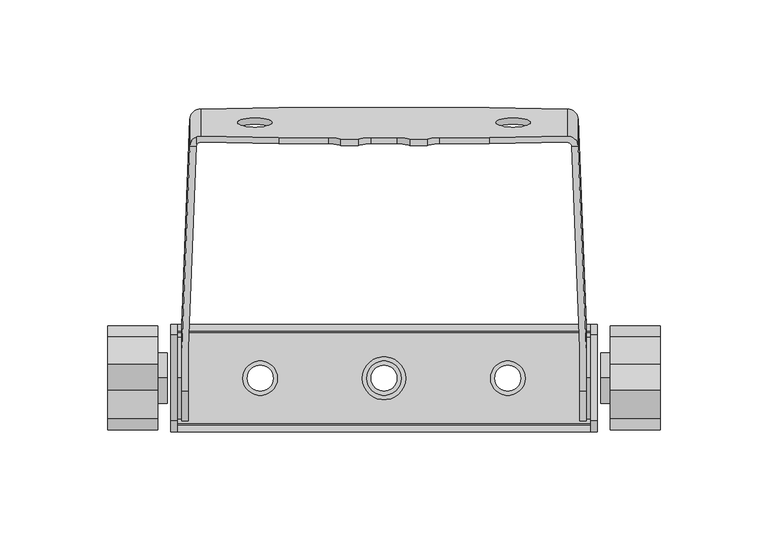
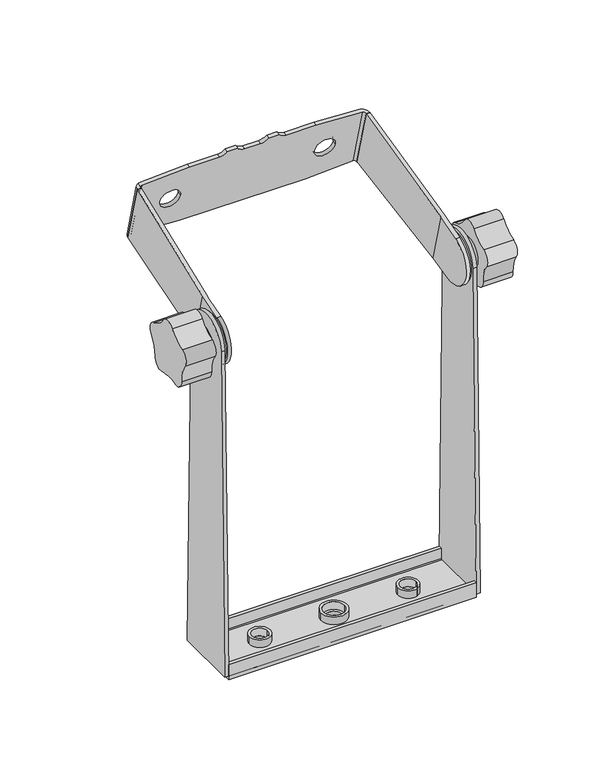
"""IFC4 building model written with IfcOpenShell, lengths in millimetres: proxy geometry, d&b U-Series U3 Swivel Bracket : d&b U-Series U3 Swivel Bracket."""

from ifc_helpers import new_model, si_unit, point, frame, frame_2d, origin, origin_2d, place, context, project, spatial, polyline, circle_curve, ellipse_curve, trimmed, segment, composite_curve, outline, extrude, source, transform, mapped, element, save
from ifc_brep_helpers import plane_surface, cylinder_surface, revolved_surface, advanced_brep


def communication_devices_72063a0f(model_context):
    return source(origin(), model_context, "Body", "SolidModel", [
        advanced_brep(
        [(85.2249786, 109.5968687, 54.6233142), (49.0, 108.9412549, 57.0700983), (26.0, 108.9412549, 57.0700983), (20.0, 108.1647978, 59.9678757), (11.9986269, 108.1649755, 59.9672126), (6.0, 108.9412549, 57.0700983), (-6.0, 108.9412549, 57.0700983), (-11.9986269, 108.1649755, 59.9672126), (-20.0, 108.1647978, 59.9678757), (-26.0, 108.9412549, 57.0700983), (-49.0, 108.9412549, 57.0700983), (-85.2249786, 109.6322735, 54.4911818), (-85.2249786, 122.2253296, 7.4932566), (-49.0, 122.8809434, 5.0464726), (49.0, 122.8809434, 5.0464726), (85.2249786, 122.2253296, 7.4932566), (-68.015413, 115.9232503, 31.0129366), (-51.9395257, 115.9232503, 31.0129366), (68.015413, 115.9232503, 31.0129366), (51.9395257, 115.9232503, 31.0129366), (-86.9078273, 108.704187, 54.1140954), (-87.1464599, 107.8082819, 53.8743772), (-87.1464599, 120.3345454, 7.1257254), (-90.1441716, 107.920985, 53.9088321), (-90.1441716, 120.3940588, 7.358687), (-86.9078273, 112.2531286, 55.0650314), (-85.1480264, 112.528583, 55.2731173), (-85.1480264, 125.1244998, 8.2645161), (-49.0, 111.8390324, 57.8465554), (-26.0, 111.8390324, 57.8465554), (-20.0, 111.0625753, 60.7443329), (-11.9986269, 111.0627529, 60.7436697), (-6.0, 111.8390324, 57.8465554), (6.0, 111.8390324, 57.8465554), (11.9986269, 111.0627529, 60.7436697), (20.0, 111.0625753, 60.7443329), (26.0, 111.8390324, 57.8465554), (49.0, 111.8390324, 57.8465554), (85.1480264, 112.4932535, 55.404969), (85.1480264, 125.1244998, 8.2645161), (49.0, 125.7787209, 5.8229297), (-49.0, 125.7787209, 5.8229297), (-51.9395257, 118.8210278, 31.7893938), (-68.015413, 118.8210278, 31.7893938), (51.9395257, 118.8210278, 31.7893938), (68.015413, 118.8210278, 31.7893938), (90.1441716, 107.9436569, 53.8242195), (90.1441716, 120.3940588, 7.358687), (87.1464599, 107.775636, 53.9962135), (87.1464599, 120.3345454, 7.1257254)],
        [
            (0, 1),
            (1, 2),
            (2, 3, circle_curve(frame((26.0, 107.0001121, 64.314542), z_axis=(0.0, 0.9659258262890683, 0.2588190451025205), x_axis=(-1.0, 0.0, 0.0)), 7.5)),
            (3, 4),
            (4, 5, circle_curve(frame((6.0, 107.0005563, 64.3128841), z_axis=(0.0, 0.9659258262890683, 0.2588190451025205), x_axis=(-1.0, 0.0, 0.0)), 7.4982837)),
            (5, 6),
            (6, 7, circle_curve(frame((-6.0, 107.0005563, 64.3128841), z_axis=(0.0, 0.9659258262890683, 0.2588190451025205), x_axis=(1.0, 0.0, 0.0)), 7.4982837)),
            (7, 8),
            (8, 9, circle_curve(frame((-26.0, 107.0001121, 64.314542), z_axis=(0.0, 0.9659258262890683, 0.2588190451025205), x_axis=(1.0, 0.0, 0.0)), 7.5)),
            (9, 10),
            (10, 11),
            (11, 12),
            (12, 13),
            (13, 14),
            (14, 15),
            (15, 0),
            (16, 17, circle_curve(frame((-59.9774693, 115.9232503, 31.0129366), z_axis=(0.0, 0.9659258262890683, 0.2588190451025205), x_axis=(1.0, 0.0, 0.0)), 8.0379437)),
            (17, 16, circle_curve(frame((-59.9774693, 115.9232503, 31.0129366), z_axis=(0.0, 0.9659258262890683, 0.2588190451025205), x_axis=(1.0, 0.0, 0.0)), 8.0379437)),
            (18, 19, circle_curve(frame((59.9774693, 115.9232503, 31.0129366), z_axis=(0.0, 0.9659258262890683, 0.2588190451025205), x_axis=(-1.0, 0.0, 0.0)), 8.0379437)),
            (19, 18, circle_curve(frame((59.9774693, 115.9232503, 31.0129366), z_axis=(0.0, 0.9659258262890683, 0.2588190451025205), x_axis=(-1.0, 0.0, 0.0)), 8.0379437)),
            (11, 20, ellipse_curve(frame((-85.2249786, 107.776265, 53.9938659), z_axis=(-0.07350366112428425, -0.2581189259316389, 0.9633129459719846), x_axis=(-0.997294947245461, 0.019024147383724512, -0.07099908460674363)), 1.9266931, 1.9214813)),
            (20, 21, ellipse_curve(frame((-85.2249786, 107.808964, 53.8718318), z_axis=(0.001371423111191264, -0.2588188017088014, 0.9659249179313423), x_axis=(0.9999990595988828, 0.00035495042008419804, -0.0013246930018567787)), 1.9214831, 1.9214813)),
            (21, 22),
            (22, 12, ellipse_curve(frame((-85.2249786, 120.3693211, 6.9959407), z_axis=(-0.06975647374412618, 0.2581885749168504, -0.9635728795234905), x_axis=(0.9975640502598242, 0.018054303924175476, -0.06737957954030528)), 1.9261734, 1.9214813)),
            (21, 23),
            (23, 24),
            (24, 22),
            (23, 25, ellipse_curve(frame((-85.1480264, 107.7331481, 53.8514077), z_axis=(-0.001371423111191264, 0.2588188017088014, -0.9659249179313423), x_axis=(-0.9999990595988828, -0.00035495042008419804, 0.0013246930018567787)), 5.0000047, 5.0)),
            (25, 26, ellipse_curve(frame((-85.1480264, 107.6989539, 53.9790221), z_axis=(0.07350366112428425, 0.2581189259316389, -0.9633129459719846), x_axis=(0.997294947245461, -0.019024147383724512, 0.07099908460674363)), 5.0135619, 5.0)),
            (26, 27),
            (27, 24, ellipse_curve(frame((-85.1480264, 120.2948706, 6.9704209), z_axis=(0.06975647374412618, -0.2581885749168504, 0.9635728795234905), x_axis=(-0.9975640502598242, -0.018054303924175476, 0.06737957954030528)), 5.0122095, 5.0)),
            (26, 28),
            (28, 29),
            (29, 30, circle_curve(frame((-26.0, 109.8978895, 65.0909991), z_axis=(0.0, -0.9659258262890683, -0.2588190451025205), x_axis=(1.0, 0.0, 0.0)), 7.5)),
            (30, 31),
            (31, 32, circle_curve(frame((-6.0, 109.8983338, 65.0893412), z_axis=(0.0, -0.9659258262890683, -0.2588190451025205), x_axis=(1.0, 0.0, 0.0)), 7.4982837)),
            (32, 33),
            (33, 34, circle_curve(frame((6.0, 109.8983338, 65.0893412), z_axis=(0.0, -0.9659258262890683, -0.2588190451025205), x_axis=(-1.0, 0.0, 0.0)), 7.4982837)),
            (34, 35),
            (35, 36, circle_curve(frame((26.0, 109.8978895, 65.0909991), z_axis=(0.0, -0.9659258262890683, -0.2588190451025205), x_axis=(-1.0, 0.0, 0.0)), 7.5)),
            (36, 37),
            (37, 38),
            (38, 39),
            (39, 40),
            (40, 41),
            (41, 27),
            (42, 43, circle_curve(frame((-59.9774693, 118.8210278, 31.7893938), z_axis=(0.0, -0.9659258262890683, -0.2588190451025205), x_axis=(1.0, 0.0, 0.0)), 8.0379437)),
            (43, 42, circle_curve(frame((-59.9774693, 118.8210278, 31.7893938), z_axis=(0.0, -0.9659258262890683, -0.2588190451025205), x_axis=(1.0, 0.0, 0.0)), 8.0379437)),
            (44, 45, circle_curve(frame((59.9774693, 118.8210278, 31.7893938), z_axis=(0.0, -0.9659258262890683, -0.2588190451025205), x_axis=(-1.0, 0.0, 0.0)), 8.0379437)),
            (45, 44, circle_curve(frame((59.9774693, 118.8210278, 31.7893938), z_axis=(0.0, -0.9659258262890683, -0.2588190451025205), x_axis=(-1.0, 0.0, 0.0)), 8.0379437)),
            (38, 46, ellipse_curve(frame((85.1480264, 107.6636244, 54.1108738), z_axis=(-0.06975647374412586, 0.25818857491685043, -0.9635728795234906), x_axis=(-0.9975640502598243, -0.018054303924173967, 0.06737957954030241)), 5.0122095, 5.0)),
            (46, 47),
            (47, 39, ellipse_curve(frame((85.1480264, 120.2948706, 6.9704209), z_axis=(-0.06975647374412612, -0.2581885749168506, 0.9635728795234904), x_axis=(0.9975640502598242, -0.01805430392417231, 0.06737957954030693)), 5.0122095, 5.0)),
            (46, 48),
            (48, 49),
            (49, 47),
            (15, 49, ellipse_curve(frame((85.2249786, 120.3693211, 6.9959407), z_axis=(0.06975647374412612, 0.2581885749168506, -0.9635728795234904), x_axis=(-0.9975640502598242, 0.01805430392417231, -0.06737957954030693)), 1.9261734, 1.9214813)),
            (48, 0, ellipse_curve(frame((85.2249786, 107.7408603, 54.1259982), z_axis=(0.06975647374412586, -0.25818857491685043, 0.9635728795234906), x_axis=(0.9975640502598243, 0.018054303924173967, -0.06737957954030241)), 1.9261734, 1.9214813)),
            (10, 28),
            (25, 20),
            (9, 29),
            (7, 31),
            (30, 8),
            (5, 33),
            (32, 6),
            (1, 37),
            (36, 2),
            (41, 13),
            (14, 40),
            (4, 34),
            (3, 35),
            (17, 42),
            (43, 16),
            (19, 44),
            (45, 18),
        ],
        [
            plane_surface(frame((85.2249786, 103.2548082, 78.2922064), z_axis=(0.0, -0.9659258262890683, -0.2588190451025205), x_axis=(0.0, 0.2588190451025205, -0.9659258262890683))),
            revolved_surface(polyline([(-83.3034973, 120.404096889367, 6.866155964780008), (-83.3034973, 107.73961137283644, 54.130659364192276)]), (-85.2249786, 124.7073671, -9.1938671), (0.0, 0.2588190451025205, -0.9659258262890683)),
            plane_surface(frame((-87.1464599, 101.3987997, 77.7948905), z_axis=(-0.03925981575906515, -0.9651811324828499, -0.2586195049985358), x_axis=(0.0, 0.2588190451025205, -0.9659258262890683))),
            cylinder_surface(frame((-85.1480264, 124.6315239, -9.2141893), z_axis=(0.0, -0.2588190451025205, 0.9659258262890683), x_axis=(1.0, 0.0, 0.0)), 5.0),
            plane_surface(frame((-85.1480264, 106.1525856, 79.0686636), z_axis=(0.0, 0.9659258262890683, 0.2588190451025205), x_axis=(0.0, 0.2588190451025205, -0.9659258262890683))),
            cylinder_surface(frame((85.1480264, 124.6315239, -9.2141893), z_axis=(0.0, -0.2588190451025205, 0.9659258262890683), x_axis=(-1.0, 0.0, 0.0)), 5.0),
            plane_surface(frame((90.1441716, 101.5125669, 77.8253743), z_axis=(0.03925981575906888, -0.9651811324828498, -0.2586195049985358), x_axis=(0.0, 0.2588190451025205, -0.9659258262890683))),
            revolved_surface(polyline([(83.3034973, 120.404096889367, 6.866155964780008), (83.3034973, 107.70608460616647, 54.2557829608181)]), (85.2249786, 124.7073671, -9.1938671), (0.0, 0.2588190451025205, -0.9659258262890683)),
            plane_surface(frame((-86.9078273, 136.7102982, 61.6183103), z_axis=(-0.07350366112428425, -0.2581189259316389, 0.9633129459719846), x_axis=(0.0, -0.9659258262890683, -0.2588190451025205))),
            plane_surface(frame((-49.0, 135.987178, 64.3170315), z_axis=(0.0, -0.2588190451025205, 0.9659258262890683), x_axis=(0.0, -0.9659258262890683, -0.2588190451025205))),
            plane_surface(frame((-20.0, 135.2107209, 67.214809), z_axis=(8.580259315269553e-05, -0.2588190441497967, 0.9659258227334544), x_axis=(0.0, -0.9659258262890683, -0.2588190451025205))),
            plane_surface(frame((-6.0, 135.987178, 64.3170315), z_axis=(0.0, -0.2588190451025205, 0.9659258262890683), x_axis=(0.0, -0.9659258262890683, -0.2588190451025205))),
            plane_surface(frame((26.0, 135.987178, 64.3170315), z_axis=(0.0, -0.2588190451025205, 0.9659258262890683), x_axis=(0.0, -0.9659258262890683, -0.2588190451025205))),
            plane_surface(frame((49.0, 135.987178, 64.3170315), z_axis=(0.06975647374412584, -0.2581885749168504, 0.9635728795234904), x_axis=(0.0, -0.9659258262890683, -0.2588190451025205))),
            plane_surface(frame((-49.0, 149.9268665, 12.2934058), z_axis=(-0.06975647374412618, 0.2581885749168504, -0.9635728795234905), x_axis=(0.0, -0.9659258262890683, -0.2588190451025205))),
            plane_surface(frame((90.1441716, 149.1822232, 15.0724524), z_axis=(0.06975647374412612, 0.2581885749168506, -0.9635728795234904), x_axis=(0.0, -0.9659258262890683, -0.2588190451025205))),
            plane_surface(frame((49.0, 149.9268665, 12.2934058), z_axis=(0.0, 0.2588190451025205, -0.9659258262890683), x_axis=(0.0, -0.9659258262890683, -0.2588190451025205))),
            revolved_surface(polyline([(-18.5, 109.89788959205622, 65.09099913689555), (-18.5, 107.00011206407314, 64.31454198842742)]), (-26.0, 85.7497439, 58.620523), (0.0, 0.9659258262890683, 0.2588190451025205)),
            revolved_surface(polyline([(1.4982837, 109.89833379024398, 65.08934123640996), (1.4982837, 107.00055629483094, 64.31288409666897)]), (-6.0, 85.7501881, 58.6188651), (0.0, 0.9659258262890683, 0.2588190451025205)),
            revolved_surface(polyline([(-1.4982837, 109.89833379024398, 65.08934123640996), (-1.4982837, 107.00055629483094, 64.31288409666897)]), (6.0, 85.7501881, 58.6188651), (0.0, 0.9659258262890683, 0.2588190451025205)),
            plane_surface(frame((11.9986269, 135.2108986, 67.2141459), z_axis=(-8.580259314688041e-05, -0.2588190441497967, 0.9659258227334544), x_axis=(0.0, -0.9659258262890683, -0.2588190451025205))),
            revolved_surface(polyline([(18.5, 109.89788959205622, 65.09099913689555), (18.5, 107.00011206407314, 64.31454198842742)]), (26.0, 85.7497439, 58.620523), (0.0, 0.9659258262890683, 0.2588190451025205)),
            plane_surface(frame((-90.1441716, 136.7091495, 61.6225975), z_axis=(0.001371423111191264, -0.2588188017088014, 0.9659249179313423), x_axis=(0.0, -0.9659258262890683, -0.2588190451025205))),
            revolved_surface(polyline([(-51.9395256, 118.82102781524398, 31.789393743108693), (-51.9395256, 115.9232503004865, 31.012936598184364)]), (-59.9774693, 94.6728821, 25.3189176), (0.0, 0.9659258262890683, 0.2588190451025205)),
            revolved_surface(polyline([(51.9395256, 118.8210278, 31.7893938), (51.9395256, 115.92325028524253, 31.01293665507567)]), (59.9774693, 118.8210278, 31.7893938), (0.0, 0.9659258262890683, 0.2588190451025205)),
        ],
        [
            (0, [[1, 2, 3, 4, 5, 6, 7, 8, 9, 10, 11, 12, 13, 14, 15, 16], [17, 18], [19, 20]]),
            (1, [[21, 22, 23, 24, -12]]),
            (2, [[25, 26, 27, -23]]),
            (3, [[28, 29, 30, 31, -26]]),
            (4, [[32, 33, 34, 35, 36, 37, 38, 39, 40, 41, 42, 43, 44, 45, 46, -30], [47, 48], [49, 50]]),
            (5, [[51, 52, 53, -43]]),
            (6, [[54, 55, 56, -52]]),
            (7, [[57, -55, 58, -16]]),
            (8, [[-21, -11, 59, -32, -29, 60]]),
            (9, [[-10, 61, -33, -59]]),
            (10, [[-8, 62, -35, 63]]),
            (11, [[-6, 64, -37, 65]]),
            (12, [[-2, 66, -41, 67]]),
            (13, [[-1, -58, -54, -51, -42, -66]]),
            (14, [[-13, -24, -27, -31, -46, 68]]),
            (15, [[-44, -53, -56, -57, -15, 69]]),
            (16, [[-45, -69, -14, -68]]),
            (17, [[-34, -61, -9, -63]]),
            (18, [[-36, -62, -7, -65]]),
            (19, [[-5, 70, -38, -64]]),
            (20, [[-4, 71, -39, -70]]),
            (21, [[-40, -71, -3, -67]]),
            (22, [[-28, -25, -22, -60]]),
            (23, [[-18, 72, -48, 73]]),
            (23, [[-47, -72, -17, -73]]),
            (24, [[-20, 74, -50, 75]]),
            (24, [[-49, -74, -19, -75]]),
        ],
    ),
        advanced_brep(
        [(90.9999991, 13.958857, 25.1789898), (87.1464845, 107.8129201, 53.8570709), (87.1464845, 120.2972632, 7.2648685), (90.9999991, 24.6789044, -14.8287719), (94.0023138, 24.6789044, -14.8287719), (90.1441716, 120.4110294, 7.295352), (90.1441716, 107.9266863, 53.8875545), (94.0023138, 13.958857, 25.1789898), (94.0, -5.8465731, 19.1232793), (94.0, 10.050104, 23.9838491), (91.0, 10.050104, 23.9838491), (91.0, -5.8465731, 19.1232793), (91.0, 4.4990789, -19.4876517), (91.0, 20.6961894, -15.7482541), (94.0, 20.6961894, -15.7482541), (94.0, 4.4990789, -19.4876517)],
        [
            (0, 1),
            (1, 2),
            (2, 3),
            (3, 0),
            (4, 5),
            (5, 6),
            (6, 7),
            (7, 4),
            (8, 9),
            (9, 7),
            (6, 1),
            (0, 10),
            (10, 11),
            (11, 8),
            (12, 13),
            (13, 3),
            (2, 5),
            (4, 14),
            (14, 15),
            (15, 12),
            (8, 15, circle_curve(frame((94.0, 0.0, 0.0), z_axis=(1.0, 0.0, 0.0), x_axis=(0.0, 0.9659258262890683, 0.2588190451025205)), 20.0)),
            (12, 11, circle_curve(frame((91.0, 0.0, 0.0), z_axis=(-1.0, 0.0, 0.0), x_axis=(0.0, 0.9659258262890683, 0.2588190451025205)), 20.0)),
        ],
        [
            plane_surface(frame((90.9999991, 12.8480622, 29.3245324), z_axis=(-0.9992290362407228, -0.03792206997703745, -0.010161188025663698), x_axis=(0.0, 0.2588190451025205, -0.9659258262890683))),
            plane_surface(frame((93.3256533, 29.4833896, 33.781955), z_axis=(0.9992290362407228, 0.03792206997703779, 0.010161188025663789), x_axis=(0.0, 0.2588190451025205, -0.9659258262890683))),
            plane_surface(frame((250.0, 33.9720379, 31.2982221), z_axis=(0.0, -0.29239743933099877, 0.9562968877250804), x_axis=(-1.0, 0.0, 0.0))),
            plane_surface(frame((250.0, 20.6961982, -15.7482521), z_axis=(0.0, 0.22495105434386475, -0.9743700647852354), x_axis=(-1.0, 0.0, 0.0))),
            plane_surface(frame((94.0, 13.9582388, 25.181297), z_axis=(1.0000000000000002, 0.0, 0.0), x_axis=(0.0, 0.2588190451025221, -0.965925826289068))),
            plane_surface(frame((91.0, 13.9582388, 25.181297), z_axis=(-1.0000000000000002, 0.0, 0.0), x_axis=(0.0, -0.2588190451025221, 0.965925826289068))),
            cylinder_surface(frame((91.0, 0.0, 0.0), z_axis=(1.0, 0.0, 0.0), x_axis=(0.0, 0.9659258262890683, 0.2588190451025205)), 20.0),
            plane_surface(frame((90.1441716, 107.9266863, 53.8875545), z_axis=(-0.03925981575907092, 0.9651811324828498, 0.25861950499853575), x_axis=(-0.9992290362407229, -0.03792206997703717, -0.010161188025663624))),
        ],
        [
            (0, [[1, 2, 3, 4]]),
            (1, [[5, 6, 7, 8]]),
            (2, [[9, 10, -7, 11, -1, 12, 13, 14]]),
            (3, [[15, 16, -3, 17, -5, 18, 19, 20]]),
            (4, [[-19, -18, -8, -10, -9, 21]]),
            (5, [[-13, -12, -4, -16, -15, 22]]),
            (6, [[-14, -22, -20, -21]]),
            (7, [[-17, -2, -11, -6]]),
        ],
    ),
        advanced_brep(
        [(-90.1441716, 107.9202414, 53.9086328), (-94.0023138, 13.958857, 25.1789898), (-94.0, 10.050104, 23.9838491), (-94.0, -5.8465731, 19.1232793), (-91.0, -5.8465731, 19.1232793), (-91.0, 10.050104, 23.9838491), (-91.0, 13.9589368, 25.1790142), (-87.1464845, 107.807678, 53.8742154), (-87.1464845, 120.3012968, 7.2473969), (-90.9999991, 24.6789044, -14.8287719), (-91.0, 20.6961894, -15.7482541), (-91.0, 4.4990789, -19.4876517), (-94.0, 4.4990789, -19.4876517), (-94.0, 20.6961894, -15.7482541), (-94.0, 24.6788957, -14.8287739), (-90.1441716, 120.4159876, 7.2738753)],
        [
            (0, 1),
            (1, 2),
            (2, 3),
            (3, 4),
            (4, 5),
            (5, 6),
            (6, 7),
            (7, 0),
            (8, 9),
            (9, 10),
            (10, 11),
            (11, 12),
            (12, 13),
            (13, 14),
            (14, 15),
            (15, 8),
            (14, 1),
            (0, 15),
            (6, 9),
            (8, 7),
            (12, 3, circle_curve(frame((-94.0, 0.0, 0.0), z_axis=(-1.0, 0.0, 0.0), x_axis=(0.0, 0.9659258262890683, 0.2588190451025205)), 20.0)),
            (4, 11, circle_curve(frame((-91.0, 0.0, 0.0), z_axis=(1.0, 0.0, 0.0), x_axis=(0.0, 0.9659258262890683, 0.2588190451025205)), 20.0)),
        ],
        [
            plane_surface(frame((250.0, 33.9720379, 31.2982221), z_axis=(0.0, -0.29239743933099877, 0.9562968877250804), x_axis=(-1.0, 0.0, 0.0))),
            plane_surface(frame((250.0, 20.6961982, -15.7482521), z_axis=(0.0, 0.22495105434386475, -0.9743700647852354), x_axis=(-1.0, 0.0, 0.0))),
            plane_surface(frame((-94.0023138, 12.8480622, 29.3245324), z_axis=(-0.999229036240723, 0.03792206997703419, 0.010161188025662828), x_axis=(0.0, 0.2588190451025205, -0.9659258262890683))),
            plane_surface(frame((-90.3279662, 29.3696234, 33.7514714), z_axis=(0.9992290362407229, -0.037922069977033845, -0.010161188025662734), x_axis=(0.0, 0.2588190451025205, -0.9659258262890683))),
            plane_surface(frame((-90.1441716, 120.4110294, 7.295352), z_axis=(0.03925981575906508, 0.9651811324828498, 0.2586195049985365), x_axis=(0.9992290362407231, -0.03792206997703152, -0.01016118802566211))),
            plane_surface(frame((-94.0, -5.8474341, 19.1260951), z_axis=(-1.0000000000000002, 0.0, 0.0), x_axis=(0.0, -0.9563047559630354, -0.2923717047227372))),
            plane_surface(frame((-91.0, -5.8474341, 19.1260951), z_axis=(1.0000000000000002, 0.0, 0.0), x_axis=(0.0, 0.9563047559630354, 0.2923717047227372))),
            cylinder_surface(frame((-91.0, 0.0, 0.0), z_axis=(-1.0, 0.0, 0.0), x_axis=(0.0, 0.9659258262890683, 0.2588190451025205)), 20.0),
        ],
        [
            (0, [[1, 2, 3, 4, 5, 6, 7, 8]]),
            (1, [[9, 10, 11, 12, 13, 14, 15, 16]]),
            (2, [[-15, 17, -1, 18]]),
            (3, [[-7, 19, -9, 20]]),
            (4, [[-8, -20, -16, -18]]),
            (5, [[-3, -2, -17, -14, -13, 21]]),
            (6, [[-11, -10, -19, -6, -5, 22]]),
            (7, [[-12, -22, -4, -21]]),
        ],
    ),
        advanced_brep(
        [(-51.5, 0.0, -265.0), (-63.5, 0.0, -265.0), (-63.5, 0.0, -262.1), (-51.5, 0.0, -262.1), (-6.0, 0.0, -265.0), (6.0, 0.0, -265.0), (6.0, 0.0, -262.1), (-6.0, 0.0, -262.1), (51.5, 0.0, -265.0), (63.5, 0.0, -265.0), (63.5, 0.0, -262.1), (51.5, 0.0, -262.1), (96.0, -22.0, -253.0), (96.0, -24.8728654, -253.0), (96.0, -24.8728654, -265.0), (96.0, 24.8728654, -265.0), (96.0, 24.8728654, -253.0), (96.0, 22.0, -253.0), (96.0, 22.0, -262.1), (96.0, -22.0, -262.1), (-96.0, -22.0, -253.0), (-96.0, -22.0, -262.1), (-96.0, 22.0, -262.1), (-96.0, 22.0, -253.0), (-96.0, 24.8728654, -253.0), (-96.0, 24.8728654, -265.0), (-96.0, -24.8728654, -265.0), (-96.0, -24.8728654, -253.0)],
        [
            (0, 1, circle_curve(frame((-57.5, 0.0, -265.0), z_axis=(0.0, 0.0, -1.0), x_axis=(-1.0, 0.0, 0.0)), 6.0)),
            (1, 2),
            (2, 3, circle_curve(frame((-57.5, 0.0, -262.1), z_axis=(0.0, 0.0, 1.0), x_axis=(-1.0, 0.0, 0.0)), 6.0)),
            (3, 0),
            (3, 2, circle_curve(frame((-57.5, 0.0, -262.1), z_axis=(0.0, 0.0, 1.0), x_axis=(-1.0, 0.0, 0.0)), 6.0)),
            (1, 0, circle_curve(frame((-57.5, 0.0, -265.0), z_axis=(0.0, 0.0, -1.0), x_axis=(-1.0, 0.0, 0.0)), 6.0)),
            (4, 5, circle_curve(frame((0.0, 0.0, -265.0), z_axis=(0.0, 0.0, -1.0), x_axis=(-1.0, 0.0, 0.0)), 6.0)),
            (5, 6),
            (6, 7, circle_curve(frame((0.0, 0.0, -262.1), z_axis=(0.0, 0.0, 1.0), x_axis=(-1.0, 0.0, 0.0)), 6.0)),
            (7, 4),
            (7, 6, circle_curve(frame((0.0, 0.0, -262.1), z_axis=(0.0, 0.0, 1.0), x_axis=(-1.0, 0.0, 0.0)), 6.0)),
            (5, 4, circle_curve(frame((0.0, 0.0, -265.0), z_axis=(0.0, 0.0, -1.0), x_axis=(-1.0, 0.0, 0.0)), 6.0)),
            (8, 9, circle_curve(frame((57.5, 0.0, -265.0), z_axis=(0.0, 0.0, -1.0), x_axis=(-1.0, 0.0, 0.0)), 6.0)),
            (9, 10),
            (10, 11, circle_curve(frame((57.5, 0.0, -262.1), z_axis=(0.0, 0.0, 1.0), x_axis=(-1.0, 0.0, 0.0)), 6.0)),
            (11, 8),
            (11, 10, circle_curve(frame((57.5, 0.0, -262.1), z_axis=(0.0, 0.0, 1.0), x_axis=(-1.0, 0.0, 0.0)), 6.0)),
            (9, 8, circle_curve(frame((57.5, 0.0, -265.0), z_axis=(0.0, 0.0, -1.0), x_axis=(-1.0, 0.0, 0.0)), 6.0)),
            (12, 13),
            (13, 14),
            (14, 15),
            (15, 16),
            (16, 17),
            (17, 18),
            (18, 19),
            (19, 12),
            (20, 21),
            (21, 22),
            (22, 23),
            (23, 24),
            (24, 25),
            (25, 26),
            (26, 27),
            (27, 20),
            (19, 21),
            (20, 12),
            (18, 22),
            (17, 23),
            (16, 24),
            (15, 25),
            (14, 26),
            (13, 27),
        ],
        [
            revolved_surface(polyline([(-63.5, 0.0, -262.1), (-63.5, 0.0, -265.0)]), (-57.5, 0.0, -268.2730471), (0.0, 0.0, 1.0)),
            revolved_surface(polyline([(-6.0, 0.0, -262.1), (-6.0, 0.0, -265.0)]), (0.0, 0.0, -260.0), (0.0, 0.0, 1.0)),
            revolved_surface(polyline([(51.5, 0.0, -262.1), (51.5, 0.0, -265.0)]), (57.5, 0.0, -260.0), (0.0, 0.0, 1.0)),
            plane_surface(frame((96.0, -22.0, -253.0), z_axis=(1.0, 0.0, 0.0), x_axis=(0.0, 0.0, -1.0))),
            plane_surface(frame((-96.0, -22.0, -253.0), z_axis=(-1.0, 0.0, 0.0), x_axis=(0.0, 0.0, 1.0))),
            plane_surface(frame((96.0, -22.0, -253.0), z_axis=(0.0, 1.0, 0.0), x_axis=(-1.0, 0.0, 0.0))),
            plane_surface(frame((96.0, -22.0, -262.1), z_axis=(0.0, 0.0, 1.0), x_axis=(-1.0, 0.0, 0.0))),
            plane_surface(frame((96.0, 22.0, -262.1), z_axis=(0.0, -1.0, 0.0), x_axis=(-1.0, 0.0, 0.0))),
            plane_surface(frame((96.0, 22.0, -253.0), z_axis=(0.0, 0.0, 1.0), x_axis=(-1.0, 0.0, 0.0))),
            plane_surface(frame((96.0, 24.8728654, -253.0), z_axis=(0.0, 1.0, 0.0), x_axis=(-1.0, 0.0, 0.0))),
            plane_surface(frame((96.0, 24.8728654, -265.0), z_axis=(0.0, 0.0, -1.0), x_axis=(-1.0, 0.0, 0.0))),
            plane_surface(frame((96.0, -24.8728654, -265.0), z_axis=(0.0, -1.0, 0.0), x_axis=(-1.0, 0.0, 0.0))),
            plane_surface(frame((96.0, -24.8728654, -253.0), z_axis=(0.0, 0.0, 1.0), x_axis=(-1.0, 0.0, 0.0))),
        ],
        [
            (0, [[1, 2, 3, 4]]),
            (0, [[5, -2, 6, -4]]),
            (1, [[7, 8, 9, 10]]),
            (1, [[11, -8, 12, -10]]),
            (2, [[13, 14, 15, 16]]),
            (2, [[17, -14, 18, -16]]),
            (3, [[19, 20, 21, 22, 23, 24, 25, 26]]),
            (4, [[27, 28, 29, 30, 31, 32, 33, 34]]),
            (5, [[35, -27, 36, -26]]),
            (6, [[37, -28, -35, -25], [-5, -3], [-11, -9], [-17, -15]]),
            (7, [[38, -29, -37, -24]]),
            (8, [[39, -30, -38, -23]]),
            (9, [[40, -31, -39, -22]]),
            (10, [[41, -32, -40, -21], [-6, -1], [-12, -7], [-18, -13]]),
            (11, [[42, -33, -41, -20]]),
            (12, [[-36, -34, -42, -19]]),
        ],
    ),
        extrude(outline(composite_curve([segment(trimmed(circle_curve(frame_2d((0.004921, 0.7683412)), 20.001227), [point((-19.9815439, 1.5366539))], [point((19.9913858, 1.5366539))], False, "CARTESIAN"), True, "CONTINUOUS"), segment(polyline([(19.9913858, 1.5366539), (25.0476426, -262.1), (-25.0477362, -262.1), (-19.9815439, 1.5366539)]), True, "CONTINUOUS")], self_intersect=False)), frame((-99.0, 0.0, 0.0), z_axis=(1.0, 0.0, 0.0), x_axis=(0.0, 1.0, 0.0)), (0.0, 0.0, 1.0), 3.0),
        extrude(outline(composite_curve([segment(trimmed(circle_curve(frame_2d((0.004921, 0.7683412)), 20.001227), [point((-19.9815439, 1.5366539))], [point((19.9913858, 1.5366539))], False, "CARTESIAN"), True, "CONTINUOUS"), segment(polyline([(19.9913858, 1.5366539), (25.0476426, -262.1), (-25.0477362, -262.1), (-19.9815439, 1.5366539)]), True, "CONTINUOUS")], self_intersect=False)), frame((96.0, 0.0, 0.0), z_axis=(1.0, 0.0, 0.0), x_axis=(0.0, 1.0, 0.0)), (0.0, 0.0, 1.0), 3.0),
        extrude(outline(composite_curve([segment(trimmed(circle_curve(frame_2d((27.151281, 35.7782371)), 25.0), [point((6.4330521, 21.7869901))], [point((19.2519239, 12.0590433))], True, "CARTESIAN"), True, "CONTINUOUS"), segment(trimmed(circle_curve(frame_2d((16.9397501, 5.1163393)), 7.3176011), [point((19.2519239, 12.0590433))], [point((22.7085813, 0.614354))], False, "CARTESIAN"), True, "CONTINUOUS"), segment(trimmed(circle_curve(frame_2d((42.4173328, -14.7663194)), 25.0), [point((22.7085813, 0.614354))], [point((17.4180033, -14.5832183))], True, "CARTESIAN"), True, "CONTINUOUS"), segment(trimmed(circle_curve(frame_2d((10.1005985, -14.5296239)), 7.3176011), [point((17.4180033, -14.5832183))], [point((7.601623, -21.4072984))], False, "CARTESIAN"), True, "CONTINUOUS"), segment(trimmed(circle_curve(frame_2d((-0.9359276, -44.9043244)), 25.0), [point((7.601623, -21.4072984))], [point((-8.4870058, -21.0719679))], True, "CARTESIAN"), True, "CONTINUOUS"), segment(trimmed(circle_curve(frame_2d((-10.6972369, -14.0961408)), 7.3176011), [point((-8.4870058, -21.0719679))], [point((-18.01052, -13.8447921))], False, "CARTESIAN"), True, "CONTINUOUS"), segment(trimmed(circle_curve(frame_2d((-42.9957679, -12.9860793)), 25.0), [point((-18.01052, -13.8447921))], [point((-22.6632614, 1.560026))], True, "CARTESIAN"), True, "CONTINUOUS"), segment(trimmed(circle_curve(frame_2d((-16.7118545, 5.8177298)), 7.3176011), [point((-22.6632614, 1.560026))], [point((-18.7327365, 12.8507464))], False, "CARTESIAN"), True, "CONTINUOUS"), segment(trimmed(circle_curve(frame_2d((-25.6369183, 36.878486)), 25.0), [point((-18.7327365, 12.8507464))], [point((-5.51966, 22.036117))], True, "CARTESIAN"), True, "CONTINUOUS"), segment(trimmed(circle_curve(frame_2d((0.3687428, 17.6916955)), 7.3176011), [point((-5.51966, 22.036117))], [point((6.4330521, 21.7869901))], False, "CARTESIAN"), True, "CONTINUOUS")], self_intersect=False)), frame((105.2, 0.0, 0.0), z_axis=(1.0, 0.0, 0.0), x_axis=(0.0, 1.0, 0.0)), (0.0, 0.0, 1.0), 23.1705346),
        extrude(outline(composite_curve([segment(trimmed(circle_curve(frame_2d((27.151281, 35.7782371)), 25.0), [point((6.4330521, 21.7869901))], [point((19.2519239, 12.0590433))], True, "CARTESIAN"), True, "CONTINUOUS"), segment(trimmed(circle_curve(frame_2d((16.9397501, 5.1163393)), 7.3176011), [point((19.2519239, 12.0590433))], [point((22.7085813, 0.614354))], False, "CARTESIAN"), True, "CONTINUOUS"), segment(trimmed(circle_curve(frame_2d((42.4173328, -14.7663194)), 25.0), [point((22.7085813, 0.614354))], [point((17.4180033, -14.5832183))], True, "CARTESIAN"), True, "CONTINUOUS"), segment(trimmed(circle_curve(frame_2d((10.1005985, -14.5296239)), 7.3176011), [point((17.4180033, -14.5832183))], [point((7.601623, -21.4072984))], False, "CARTESIAN"), True, "CONTINUOUS"), segment(trimmed(circle_curve(frame_2d((-0.9359276, -44.9043244)), 25.0), [point((7.601623, -21.4072984))], [point((-8.4870058, -21.0719679))], True, "CARTESIAN"), True, "CONTINUOUS"), segment(trimmed(circle_curve(frame_2d((-10.6972369, -14.0961408)), 7.3176011), [point((-8.4870058, -21.0719679))], [point((-18.01052, -13.8447921))], False, "CARTESIAN"), True, "CONTINUOUS"), segment(trimmed(circle_curve(frame_2d((-42.9957679, -12.9860793)), 25.0), [point((-18.01052, -13.8447921))], [point((-22.6632614, 1.560026))], True, "CARTESIAN"), True, "CONTINUOUS"), segment(trimmed(circle_curve(frame_2d((-16.7118545, 5.8177298)), 7.3176011), [point((-22.6632614, 1.560026))], [point((-18.7327365, 12.8507464))], False, "CARTESIAN"), True, "CONTINUOUS"), segment(trimmed(circle_curve(frame_2d((-25.6369183, 36.878486)), 25.0), [point((-18.7327365, 12.8507464))], [point((-5.51966, 22.036117))], True, "CARTESIAN"), True, "CONTINUOUS"), segment(trimmed(circle_curve(frame_2d((0.3687428, 17.6916955)), 7.3176011), [point((-5.51966, 22.036117))], [point((6.4330521, 21.7869901))], False, "CARTESIAN"), True, "CONTINUOUS")], self_intersect=False)), frame((-128.3705346, 0.0, 0.0), z_axis=(1.0, 0.0, 0.0), x_axis=(0.0, 1.0, 0.0)), (0.0, 0.0, 1.0), 23.1705346),
        advanced_brep(
        [(96.0, -22.0, -253.0), (96.0, -24.8728654, -253.0), (96.0, -24.8728654, -260.0), (96.0, -19.8728654, -265.0), (96.0, 19.8728654, -265.0), (96.0, 24.8728654, -260.0), (96.0, 24.8728654, -253.0), (96.0, 22.0, -253.0), (96.0, 22.0, -260.0), (96.0, 19.8728654, -262.1), (96.0, -19.8728654, -262.1), (96.0, -21.9728654, -260.0), (-96.0, -22.0, -253.0), (-96.0, -22.0, -260.0), (-96.0, -19.8728654, -262.1), (-96.0, 19.8728654, -262.1), (-96.0, 21.9728654, -260.0), (-96.0, 22.0, -253.0), (-96.0, 24.8728654, -253.0), (-96.0, 24.8728654, -260.0), (-96.0, 19.8728654, -265.0), (-96.0, -19.8728654, -265.0), (-96.0, -24.8728654, -260.0), (-96.0, -24.8728654, -253.0), (-63.5, 0.0, -262.1), (-51.5, 0.0, -262.1), (6.0, 0.0, -262.1), (-6.0, 0.0, -262.1), (63.5, 0.0, -262.1), (51.5, 0.0, -262.1), (-51.5, 0.0, -265.0), (-63.5, 0.0, -265.0), (-6.0, 0.0, -265.0), (6.0, 0.0, -265.0), (51.5, 0.0, -265.0), (63.5, 0.0, -265.0)],
        [
            (0, 1),
            (1, 2),
            (2, 3, circle_curve(frame((96.0, -19.8728654, -260.0), z_axis=(1.0, 0.0, 0.0), x_axis=(0.0, -1.0, 0.0)), 5.0)),
            (3, 4),
            (4, 5, circle_curve(frame((96.0, 19.8728654, -260.0), z_axis=(1.0, 0.0, 0.0), x_axis=(0.0, -1.0, 0.0)), 5.0)),
            (5, 6),
            (6, 7),
            (7, 8),
            (8, 9, circle_curve(frame((96.0, 19.8728654, -260.0), z_axis=(-1.0, 0.0, 0.0), x_axis=(0.0, -1.0, 0.0)), 2.1)),
            (9, 10),
            (10, 11, circle_curve(frame((96.0, -19.8728654, -260.0), z_axis=(-1.0, 0.0, 0.0), x_axis=(0.0, -1.0, 0.0)), 2.1)),
            (11, 0),
            (12, 13),
            (13, 14, circle_curve(frame((-96.0, -19.8728654, -260.0), z_axis=(1.0, 0.0, 0.0), x_axis=(0.0, -1.0, 0.0)), 2.1)),
            (14, 15),
            (15, 16, circle_curve(frame((-96.0, 19.8728654, -260.0), z_axis=(1.0, 0.0, 0.0), x_axis=(0.0, -1.0, 0.0)), 2.1)),
            (16, 17),
            (17, 18),
            (18, 19),
            (19, 20, circle_curve(frame((-96.0, 19.8728654, -260.0), z_axis=(-1.0, 0.0, 0.0), x_axis=(0.0, -1.0, 0.0)), 5.0)),
            (20, 21),
            (21, 22, circle_curve(frame((-96.0, -19.8728654, -260.0), z_axis=(-1.0, 0.0, 0.0), x_axis=(0.0, -1.0, 0.0)), 5.0)),
            (22, 23),
            (23, 12),
            (11, 13),
            (12, 0),
            (10, 14),
            (9, 15),
            (24, 25, circle_curve(frame((-57.5, 0.0, -262.1), z_axis=(0.0, 0.0, -1.0), x_axis=(-1.0, 0.0, 0.0)), 6.0)),
            (25, 24, circle_curve(frame((-57.5, 0.0, -262.1), z_axis=(0.0, 0.0, -1.0), x_axis=(-1.0, 0.0, 0.0)), 6.0)),
            (26, 27, circle_curve(frame((0.0, 0.0, -262.1), z_axis=(0.0, 0.0, -1.0), x_axis=(-1.0, 0.0, 0.0)), 6.0)),
            (27, 26, circle_curve(frame((0.0, 0.0, -262.1), z_axis=(0.0, 0.0, -1.0), x_axis=(-1.0, 0.0, 0.0)), 6.0)),
            (28, 29, circle_curve(frame((57.5, 0.0, -262.1), z_axis=(0.0, 0.0, -1.0), x_axis=(-1.0, 0.0, 0.0)), 6.0)),
            (29, 28, circle_curve(frame((57.5, 0.0, -262.1), z_axis=(0.0, 0.0, -1.0), x_axis=(-1.0, 0.0, 0.0)), 6.0)),
            (8, 16),
            (7, 17),
            (6, 18),
            (5, 19),
            (4, 20),
            (3, 21),
            (30, 31, circle_curve(frame((-57.5, 0.0, -265.0), z_axis=(0.0, 0.0, 1.0), x_axis=(-1.0, 0.0, 0.0)), 6.0)),
            (31, 30, circle_curve(frame((-57.5, 0.0, -265.0), z_axis=(0.0, 0.0, 1.0), x_axis=(-1.0, 0.0, 0.0)), 6.0)),
            (32, 33, circle_curve(frame((0.0, 0.0, -265.0), z_axis=(0.0, 0.0, 1.0), x_axis=(-1.0, 0.0, 0.0)), 6.0)),
            (33, 32, circle_curve(frame((0.0, 0.0, -265.0), z_axis=(0.0, 0.0, 1.0), x_axis=(-1.0, 0.0, 0.0)), 6.0)),
            (34, 35, circle_curve(frame((57.5, 0.0, -265.0), z_axis=(0.0, 0.0, 1.0), x_axis=(-1.0, 0.0, 0.0)), 6.0)),
            (35, 34, circle_curve(frame((57.5, 0.0, -265.0), z_axis=(0.0, 0.0, 1.0), x_axis=(-1.0, 0.0, 0.0)), 6.0)),
            (2, 22),
            (1, 23),
            (31, 24),
            (25, 30),
            (33, 26),
            (27, 32),
            (35, 28),
            (29, 34),
        ],
        [
            plane_surface(frame((96.0, -22.0, -253.0), z_axis=(1.0, 0.0, 0.0), x_axis=(0.0, 0.0, -1.0))),
            plane_surface(frame((-96.0, -22.0, -253.0), z_axis=(-1.0, 0.0, 0.0), x_axis=(0.0, 0.0, 1.0))),
            plane_surface(frame((96.0, -22.0, -253.0), z_axis=(0.0, 1.0, 0.0), x_axis=(-1.0, 0.0, 0.0))),
            revolved_surface(polyline([(-96.0, -21.9728654, -260.0), (96.0, -21.9728654, -260.0)]), (-96.0, -19.8728654, -260.0), (-1.0, 0.0, 0.0)),
            plane_surface(frame((96.0, -19.8728654, -262.1), z_axis=(0.0, 0.0, 1.0), x_axis=(-1.0, 0.0, 0.0))),
            revolved_surface(polyline([(-96.0, 17.772865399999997, -260.0), (96.0, 17.772865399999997, -260.0)]), (-96.0, 19.8728654, -260.0), (-1.0, 0.0, 0.0)),
            plane_surface(frame((96.0, 22.0, -260.0), z_axis=(0.0, -1.0, 0.0), x_axis=(-1.0, 0.0, 0.0))),
            plane_surface(frame((96.0, 22.0, -253.0), z_axis=(0.0, 0.0, 1.0), x_axis=(-1.0, 0.0, 0.0))),
            plane_surface(frame((96.0, 24.8728654, -253.0), z_axis=(0.0, 1.0, 0.0), x_axis=(-1.0, 0.0, 0.0))),
            cylinder_surface(frame((-96.0, 19.8728654, -260.0), z_axis=(1.0, 0.0, 0.0), x_axis=(0.0, -1.0, 0.0)), 5.0),
            plane_surface(frame((96.0, 19.8728654, -265.0), z_axis=(0.0, 0.0, -1.0), x_axis=(-1.0, 0.0, 0.0))),
            cylinder_surface(frame((-96.0, -19.8728654, -260.0), z_axis=(1.0, 0.0, 0.0), x_axis=(0.0, -1.0, 0.0)), 5.0),
            plane_surface(frame((96.0, -24.8728654, -260.0), z_axis=(0.0, -1.0, 0.0), x_axis=(-1.0, 0.0, 0.0))),
            plane_surface(frame((96.0, -24.8728654, -253.0), z_axis=(0.0, 0.0, 1.0), x_axis=(-1.0, 0.0, 0.0))),
            revolved_surface(polyline([(-63.5, 0.0, -262.1), (-63.5, 0.0, -265.0)]), (-57.5, 0.0, -268.2730471), (0.0, 0.0, 1.0)),
            revolved_surface(polyline([(-6.0, 0.0, -262.1), (-6.0, 0.0, -265.0)]), (0.0, 0.0, -260.0), (0.0, 0.0, 1.0)),
            revolved_surface(polyline([(51.5, 0.0, -262.1), (51.5, 0.0, -265.0)]), (57.5, 0.0, -260.0), (0.0, 0.0, 1.0)),
        ],
        [
            (0, [[1, 2, 3, 4, 5, 6, 7, 8, 9, 10, 11, 12]]),
            (1, [[13, 14, 15, 16, 17, 18, 19, 20, 21, 22, 23, 24]]),
            (2, [[25, -13, 26, -12]]),
            (3, [[27, -14, -25, -11]]),
            (4, [[28, -15, -27, -10], [29, 30], [31, 32], [33, 34]]),
            (5, [[35, -16, -28, -9]]),
            (6, [[36, -17, -35, -8]]),
            (7, [[37, -18, -36, -7]]),
            (8, [[38, -19, -37, -6]]),
            (9, [[39, -20, -38, -5]]),
            (10, [[40, -21, -39, -4], [41, 42], [43, 44], [45, 46]]),
            (11, [[47, -22, -40, -3]]),
            (12, [[48, -23, -47, -2]]),
            (13, [[-26, -24, -48, -1]]),
            (14, [[-42, 49, -30, 50]]),
            (14, [[-29, -49, -41, -50]]),
            (15, [[-44, 51, -32, 52]]),
            (15, [[-31, -51, -43, -52]]),
            (16, [[-46, 53, -34, 54]]),
            (16, [[-33, -53, -45, -54]]),
        ],
    ),
        extrude(outline(composite_curve([segment(trimmed(circle_curve(origin_2d(), 10.0), [point((10.0, 0.0))], [point((-10.0, 0.0))], False, "CARTESIAN"), True, "CONTINUOUS"), segment(trimmed(circle_curve(origin_2d(), 10.0), [point((-10.0, 0.0))], [point((10.0, 0.0))], False, "CARTESIAN"), True, "CONTINUOUS")], self_intersect=False), holes=[composite_curve([segment(trimmed(circle_curve(origin_2d(), 8.0), [point((8.0, 0.0))], [point((-8.0, 0.0))], True, "CARTESIAN"), True, "CONTINUOUS"), segment(trimmed(circle_curve(origin_2d(), 8.0), [point((-8.0, 0.0))], [point((8.0, 0.0))], True, "CARTESIAN"), True, "CONTINUOUS")], self_intersect=False)]), frame((0.0, 0.0, -262.1), z_axis=(0.0, 0.0, 1.0), x_axis=(1.0, 0.0, 0.0)), (0.0, 0.0, 1.0), 6.5),
        extrude(outline(composite_curve([segment(trimmed(circle_curve(frame_2d((-57.5, 0.0)), 8.0), [point((-49.5, 0.0))], [point((-65.5, 0.0))], False, "CARTESIAN"), True, "CONTINUOUS"), segment(trimmed(circle_curve(frame_2d((-57.5, 0.0)), 8.0), [point((-65.5, 0.0))], [point((-49.5, 0.0))], False, "CARTESIAN"), True, "CONTINUOUS")], self_intersect=False), holes=[composite_curve([segment(trimmed(circle_curve(frame_2d((-57.5, 0.0)), 6.0), [point((-51.5, 0.0))], [point((-63.5, 0.0))], True, "CARTESIAN"), True, "CONTINUOUS"), segment(trimmed(circle_curve(frame_2d((-57.5, 0.0)), 6.0), [point((-63.5, 0.0))], [point((-51.5, 0.0))], True, "CARTESIAN"), True, "CONTINUOUS")], self_intersect=False)]), frame((0.0, 0.0, -262.1), z_axis=(0.0, 0.0, 1.0), x_axis=(1.0, 0.0, 0.0)), (0.0, 0.0, 1.0), 6.5),
        extrude(outline(composite_curve([segment(trimmed(circle_curve(frame_2d((57.5, 0.0)), 8.0), [point((65.5, 0.0))], [point((49.5, 0.0))], False, "CARTESIAN"), True, "CONTINUOUS"), segment(trimmed(circle_curve(frame_2d((57.5, 0.0)), 8.0), [point((49.5, 0.0))], [point((65.5, 0.0))], False, "CARTESIAN"), True, "CONTINUOUS")], self_intersect=False), holes=[composite_curve([segment(trimmed(circle_curve(frame_2d((57.5, 0.0)), 6.0), [point((63.5, 0.0))], [point((51.5, 0.0))], True, "CARTESIAN"), True, "CONTINUOUS"), segment(trimmed(circle_curve(frame_2d((57.5, 0.0)), 6.0), [point((51.5, 0.0))], [point((63.5, 0.0))], True, "CARTESIAN"), True, "CONTINUOUS")], self_intersect=False)]), frame((0.0, 0.0, -262.1), z_axis=(0.0, 0.0, 1.0), x_axis=(1.0, 0.0, 0.0)), (0.0, 0.0, 1.0), 6.5),
        advanced_brep(
        [(105.2, 0.0, -11.75), (105.2, 0.0, 0.0), (105.2, 0.0, 11.75), (100.6, 0.0, 0.0), (100.6, 0.0, -11.75), (100.6, 0.0, 11.75)],
        [
            (0, 1),
            (1, 2),
            (2, 0, circle_curve(frame((105.2, 0.0, 0.0), z_axis=(1.0, 0.0, 0.0), x_axis=(0.0, 0.0, 1.0)), 11.75)),
            (0, 2, circle_curve(frame((105.2, 0.0, 0.0), z_axis=(1.0, 0.0, 0.0), x_axis=(0.0, 0.0, 1.0)), 11.75)),
            (3, 4),
            (4, 5, circle_curve(frame((100.6, 0.0, 0.0), z_axis=(-1.0, 0.0, 0.0), x_axis=(0.0, 0.0, 1.0)), 11.75)),
            (5, 3),
            (5, 4, circle_curve(frame((100.6, 0.0, 0.0), z_axis=(-1.0, 0.0, 0.0), x_axis=(0.0, 0.0, 1.0)), 11.75)),
            (4, 0),
            (2, 5),
        ],
        [
            plane_surface(frame((105.2, 0.0, 0.0), z_axis=(1.0, 0.0, 0.0), x_axis=(0.0, 0.0, 1.0))),
            plane_surface(frame((100.6, 0.0, 0.0), z_axis=(-1.0, 0.0, 0.0), x_axis=(0.0, 0.0, 1.0))),
            cylinder_surface(frame((130.2, 0.0, 0.0), z_axis=(-1.0, 0.0, 0.0), x_axis=(0.0, 0.0, 1.0)), 11.75),
        ],
        [
            (0, [[1, 2, 3]]),
            (0, [[-2, -1, 4]]),
            (1, [[5, 6, 7]]),
            (1, [[-7, 8, -5]]),
            (2, [[9, -3, 10, -6]]),
            (2, [[-10, -4, -9, -8]]),
        ],
    ),
        advanced_brep(
        [(94.0, 0.0, -19.0085486), (96.0, 0.0, -19.0085486), (96.0, 0.0, 19.0085486), (94.0, 0.0, 19.0085486), (96.0, 0.0, 0.0), (94.0, 0.0, 0.0)],
        [
            (0, 1),
            (1, 2, circle_curve(frame((96.0, 0.0, 0.0), z_axis=(-1.0, 0.0, 0.0), x_axis=(0.0, 0.0, 1.0)), 19.0085486)),
            (2, 3),
            (3, 0, circle_curve(frame((94.0, 0.0, 0.0), z_axis=(1.0, 0.0, 0.0), x_axis=(0.0, 0.0, 1.0)), 19.0085486)),
            (2, 1, circle_curve(frame((96.0, 0.0, 0.0), z_axis=(-1.0, 0.0, 0.0), x_axis=(0.0, 0.0, 1.0)), 19.0085486)),
            (0, 3, circle_curve(frame((94.0, 0.0, 0.0), z_axis=(1.0, 0.0, 0.0), x_axis=(0.0, 0.0, 1.0)), 19.0085486)),
            (1, 4),
            (4, 2),
            (5, 0),
            (3, 5),
        ],
        [
            cylinder_surface(frame((130.2, 0.0, 0.0), z_axis=(-1.0, 0.0, 0.0), x_axis=(0.0, 0.0, 1.0)), 19.0085486),
            plane_surface(frame((96.0, 0.0, 0.0), z_axis=(1.0, 0.0, 0.0), x_axis=(0.0, 0.0, 1.0))),
            plane_surface(frame((94.0, 0.0, 0.0), z_axis=(-1.0, 0.0, 0.0), x_axis=(0.0, 0.0, 1.0))),
        ],
        [
            (0, [[1, 2, 3, 4]]),
            (0, [[-3, 5, -1, 6]]),
            (1, [[7, 8, -2]]),
            (1, [[-8, -7, -5]]),
            (2, [[9, -4, 10]]),
            (2, [[-10, -6, -9]]),
        ],
    ),
        advanced_brep(
        [(-105.2, 0.0, 0.0), (-105.2, 0.0, -11.75), (-105.2, 0.0, 11.75), (-100.6, 0.0, -11.75), (-100.6, 0.0, 0.0), (-100.6, 0.0, 11.75)],
        [
            (0, 1),
            (1, 2, circle_curve(frame((-105.2, 0.0, 0.0), z_axis=(-1.0, 0.0, 0.0), x_axis=(0.0, 0.0, 1.0)), 11.75)),
            (2, 0),
            (2, 1, circle_curve(frame((-105.2, 0.0, 0.0), z_axis=(-1.0, 0.0, 0.0), x_axis=(0.0, 0.0, 1.0)), 11.75)),
            (3, 4),
            (4, 5),
            (5, 3, circle_curve(frame((-100.6, 0.0, 0.0), z_axis=(1.0, 0.0, 0.0), x_axis=(0.0, 0.0, 1.0)), 11.75)),
            (3, 5, circle_curve(frame((-100.6, 0.0, 0.0), z_axis=(1.0, 0.0, 0.0), x_axis=(0.0, 0.0, 1.0)), 11.75)),
            (1, 3),
            (5, 2),
        ],
        [
            plane_surface(frame((-105.2, 0.0, 0.0), z_axis=(-1.0, 0.0, 0.0), x_axis=(0.0, 0.0, 1.0))),
            plane_surface(frame((-100.6, 0.0, 0.0), z_axis=(1.0, 0.0, 0.0), x_axis=(0.0, 0.0, 1.0))),
            cylinder_surface(frame((-130.2, 0.0, 0.0), z_axis=(-1.0, 0.0, 0.0), x_axis=(0.0, 0.0, 1.0)), 11.75),
        ],
        [
            (0, [[1, 2, 3]]),
            (0, [[-3, 4, -1]]),
            (1, [[5, 6, 7]]),
            (1, [[-6, -5, 8]]),
            (2, [[9, -7, 10, -2]]),
            (2, [[-10, -8, -9, -4]]),
        ],
    ),
        advanced_brep(
        [(-96.0, 0.0, -19.0085486), (-94.0, 0.0, -19.0085486), (-94.0, 0.0, 19.0085486), (-96.0, 0.0, 19.0085486), (-96.0, 0.0, 0.0), (-94.0, 0.0, 0.0)],
        [
            (0, 1),
            (1, 2, circle_curve(frame((-94.0, 0.0, 0.0), z_axis=(-1.0, 0.0, 0.0), x_axis=(0.0, 0.0, 1.0)), 19.0085486)),
            (2, 3),
            (3, 0, circle_curve(frame((-96.0, 0.0, 0.0), z_axis=(1.0, 0.0, 0.0), x_axis=(0.0, 0.0, 1.0)), 19.0085486)),
            (2, 1, circle_curve(frame((-94.0, 0.0, 0.0), z_axis=(-1.0, 0.0, 0.0), x_axis=(0.0, 0.0, 1.0)), 19.0085486)),
            (0, 3, circle_curve(frame((-96.0, 0.0, 0.0), z_axis=(1.0, 0.0, 0.0), x_axis=(0.0, 0.0, 1.0)), 19.0085486)),
            (4, 0),
            (3, 4),
            (1, 5),
            (5, 2),
        ],
        [
            cylinder_surface(frame((-130.2, 0.0, 0.0), z_axis=(-1.0, 0.0, 0.0), x_axis=(0.0, 0.0, 1.0)), 19.0085486),
            plane_surface(frame((-96.0, 0.0, 0.0), z_axis=(-1.0, 0.0, 0.0), x_axis=(0.0, 0.0, 1.0))),
            plane_surface(frame((-94.0, 0.0, 0.0), z_axis=(1.0, 0.0, 0.0), x_axis=(0.0, 0.0, 1.0))),
        ],
        [
            (0, [[1, 2, 3, 4]]),
            (0, [[-3, 5, -1, 6]]),
            (1, [[7, -4, 8]]),
            (1, [[-8, -6, -7]]),
            (2, [[9, 10, -2]]),
            (2, [[-10, -9, -5]]),
        ],
    ),
    ])


if __name__ == "__main__":
    model = new_model("IFC4")
    model_context = context("Model", 3, world=origin())
    ifc_project = project(units=[si_unit("LENGTHUNIT", "METRE", prefix="MILLI")], contexts=[model_context])
    site = spatial("IfcSite", under=ifc_project)
    building = spatial("IfcBuilding", under=site)
    placement = place(None, origin())
    communication_devices_shape = communication_devices_72063a0f(model_context)
    element("IfcBuildingElementProxy", 1, Name="d&b U-Series U3 Swivel Bracket : d&b U-Series U3 Swivel Bracket", ObjectType="d&b U-Series U3 Swivel Bracket : d&b U-Series U3 Swivel Bracket", at=placement, inside=building, context=model_context, shape_type="MappedRepresentation", body=[
        mapped(communication_devices_shape, transform((0.0, 0.0, 0.0), x_axis=(1.0, 0.0, 0.0), y_axis=(0.0, 1.0, 0.0), z_axis=(0.0, 0.0, 1.0))),
    ])
    save(model, "model.ifc")
